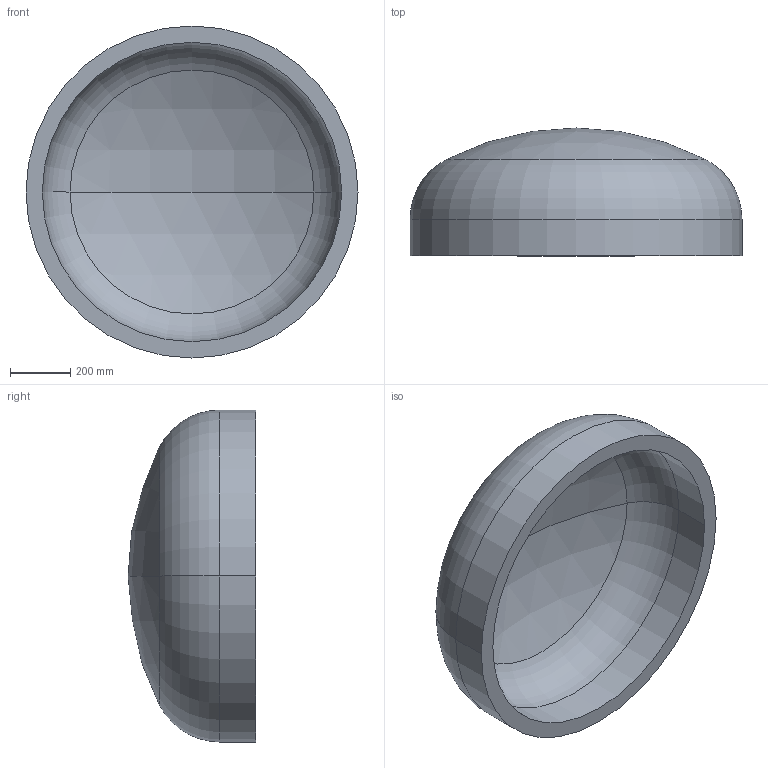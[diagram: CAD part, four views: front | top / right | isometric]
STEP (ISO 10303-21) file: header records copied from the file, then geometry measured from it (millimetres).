
FILE_DESCRIPTION (( 'STEP AP203' ), '1' );
FILE_NAME ('DIN 28013 Korbbogenform_-_Boden DIN 28013 - 1100 x 120 - I - s=54.step', '2016-07-01T09:10:22', ( '' ), ( '' ), 'SwSTEP 2.0', 'SolidWorks 2013', '' );
FILE_SCHEMA (( 'CONFIG_CONTROL_DESIGN' ));
Length unit declared in the file: millimetre
Products named in the file (1): DIN 28013 Korbbogenform_-_Boden DIN 28013 - 1100 x 120 - I - s=54
Bounding box: 1100 x 423.27 x 1100 mm (x, y, z)
Volume: 88068594 mm3; surface area: 3445356 mm2
Topology: 1 solids, 1 shells, 13 faces, 24 edges, 14 vertices
Faces by surface type: torus 4, cylinder 4, sphere 4, plane 1
Entity records: 407 total; most frequent: DIRECTION 72, CARTESIAN_POINT 52, ORIENTED_EDGE 48, AXIS2_PLACEMENT_3D 34, EDGE_CURVE 24, CIRCLE 20, EDGE_LOOP 14, VERTEX_POINT 14
